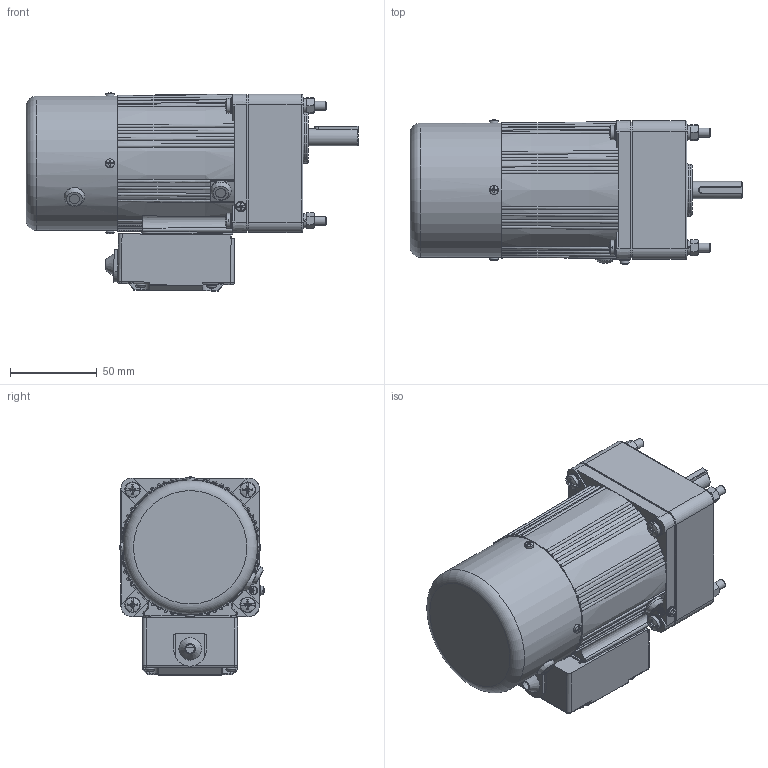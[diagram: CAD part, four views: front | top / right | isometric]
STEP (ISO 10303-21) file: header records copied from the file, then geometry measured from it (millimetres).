
FILE_DESCRIPTION(/* description */ (''),/* implementation_level */ '2;1');
FILE_NAME(/* name */ '4RK25-40GNC·TM-4GN3-20K-C·10T长款接线盒.stp',/* time_stamp */ '2025-04-13T15:27:46+08:00',/* author */ (''),/* organization */ (''),/* preprocessor_version */ 'ST-DEVELOPER v18.102',/* originating_system */ 'SIEMENS PLM Software NX 2027',/* authorisation */ '');
FILE_SCHEMA (('AP203_CONFIGURATION_CONTROLLED_3D_DESIGN_OF_MECHANICAL_PARTS_AND_ASSEMBLIES_MIM_LF { 1 0 10303 403 2 1 2}'));
Products named in the file (1): 4RK25-40CC·M-4GN3-20K-C·10T_stp_objects
Bounding box: 191.8 x 83.42 x 114.48 mm (x, y, z)
Volume: 880529.6 mm3; surface area: 126761.2 mm2
Topology: 23 solids, 23 shells, 1714 faces, 4423 edges, 2824 vertices
Faces by surface type: plane 692, cylinder 408, bspline 328, cone 146, torus 98, sphere 42
Full cylindrical faces by diameter (mm): 2.2 x2, 2.6 x1, 2.9 x4, 3 x1, 3.2 x1, 3.5 x2, 4 x1, 4.2 x1, 4.351 x4, 4.4 x1, 4.6 x4, 4.8 x1, 5 x5, 5.1 x5, 5.3 x8, 5.6 x4, 6 x15, 6.5 x4, 7 x1, 8 x3, 8.2 x1, 8.5 x4, 9 x8, 10 x3, 10.5 x1, 19 x1, 26 x1, 30 x1, 56 x1, 67 x1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
Entity records: 59151 total; most frequent: CARTESIAN_POINT 21266, ORIENTED_EDGE 8306, DIRECTION 6632, EDGE_CURVE 4153, VERTEX_POINT 2755, AXIS2_PLACEMENT_3D 2577, EDGE_LOOP 2038, ADVANCED_FACE 1711
